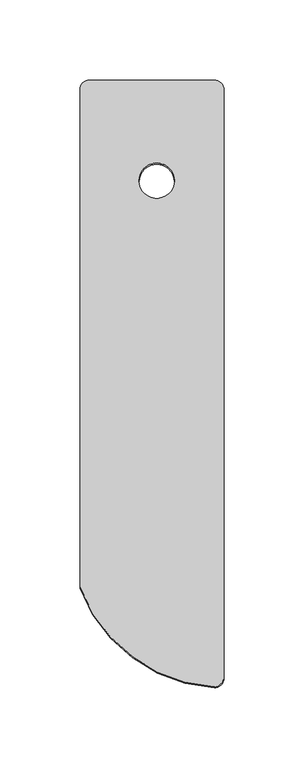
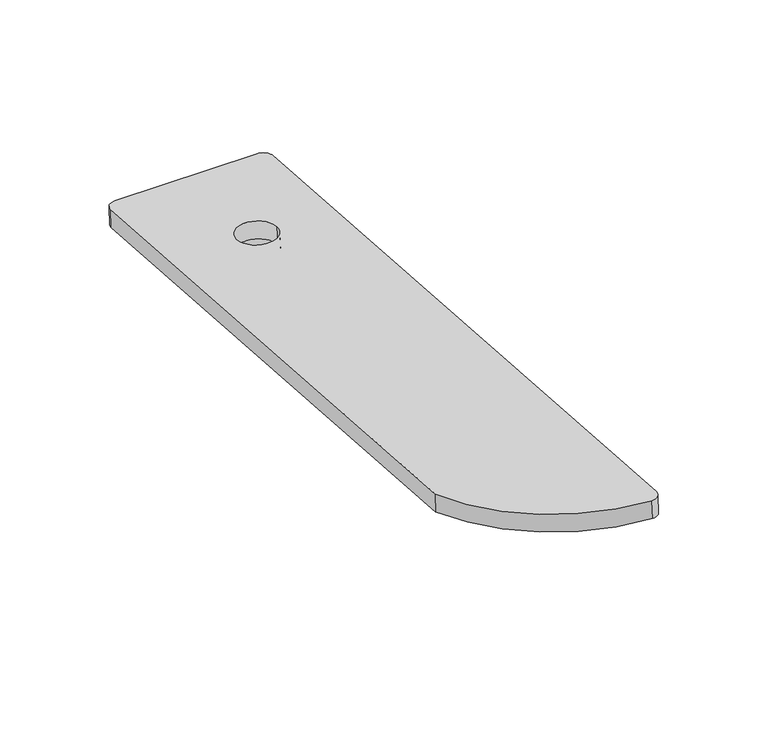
"""IFC4 building model written with IfcOpenShell, lengths in millimetres: proxy geometry, ML PhotonRoof Beaver Brick Premium : 0,5X-L."""

from ifc_helpers import new_model, si_unit, point, frame, frame_2d, origin, place, context, project, spatial, polyline, circle_curve, trimmed, segment, composite_curve, outline, extrude, source, transform, mapped, element, save


def specialty_equipment_b6c8b219(model_context):
    return source(origin(), model_context, "Body", "SweptSolid", [
        extrude(outline(composite_curve([segment(trimmed(circle_curve(frame_2d((311.4065862, -6.0)), 6.0), [point((311.4065862, 0.0))], [point((317.4065861, -6.0))], False, "CARTESIAN"), True, "CONTINUOUS"), segment(polyline([(317.4065861, -6.0), (317.4065861, -84.0)]), True, "CONTINUOUS"), segment(trimmed(circle_curve(frame_2d((311.4065862, -84.0)), 6.0), [point((317.4065861, -84.0))], [point((311.4065862, -90.0))], False, "CARTESIAN"), True, "CONTINUOUS"), segment(polyline([(311.4065862, -90.0), (-56.4057304, -90.0)]), True, "CONTINUOUS"), segment(trimmed(circle_curve(frame_2d((-56.4057304, -84.0)), 6.0), [point((-56.4057304, -90.0))], [point((-62.4057303, -84.0))], False, "CARTESIAN"), True, "CONTINUOUS"), segment(trimmed(circle_curve(frame_2d((33.4065862, -90.0)), 96.0), [point((-62.4057303, -84.0))], [point((0.0, 0.0))], False, "CARTESIAN"), True, "CONTINUOUS"), segment(polyline([(0.0, 0.0), (311.4065862, 0.0)]), True, "CONTINUOUS")], self_intersect=False), holes=[composite_curve([segment(trimmed(circle_curve(frame_2d((254.4065861, -48.0)), 11.0), [point((254.4065861, -37.0))], [point((254.4065861, -59.0))], True, "CARTESIAN"), True, "CONTINUOUS"), segment(trimmed(circle_curve(frame_2d((254.4065861, -48.0)), 11.0), [point((254.4065861, -59.0))], [point((254.4065861, -37.0))], True, "CARTESIAN"), True, "CONTINUOUS")], self_intersect=False)]), frame((-90.0, -254.7876088, 18.0817013), z_axis=(0.0, 0.0707897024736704, 0.997491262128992), x_axis=(0.0, 0.997491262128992, -0.0707897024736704)), (0.0, 0.0, 1.0), 10.0),
        extrude(outline(polyline([(44.9032038, 0.0), (44.9032038, -23.75), (-5.0967962, -23.75), (-5.0967962, 0.0), (44.9032038, 0.0)])), frame((-64.9032038, 44.8719219, -17.0261079), z_axis=(0.0, 0.0707897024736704, 0.997491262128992), x_axis=(1.0, 0.0, 0.0)), (0.0, 0.0, 1.0), 13.8069239),
    ])


if __name__ == "__main__":
    model = new_model("IFC4")
    model_context = context("Model", 3, world=origin())
    ifc_project = project(units=[si_unit("LENGTHUNIT", "METRE", prefix="MILLI")], contexts=[model_context])
    site = spatial("IfcSite", under=ifc_project)
    building = spatial("IfcBuilding", under=site)
    placement = place(None, origin())
    specialty_equipment_shape = specialty_equipment_b6c8b219(model_context)
    element("IfcBuildingElementProxy", 1, Name="ML PhotonRoof Beaver Brick Premium : 0,5X-L", ObjectType="ML PhotonRoof Beaver Brick Premium : 0,5X-L", at=placement, inside=building, context=model_context, shape_type="MappedRepresentation", body=[
        mapped(specialty_equipment_shape, transform((0.0, 0.0, 0.0), x_axis=(1.0, 0.0, 0.0), y_axis=(0.0, 1.0, 0.0), z_axis=(0.0, 0.0, 1.0))),
    ])
    save(model, "model.ifc")
